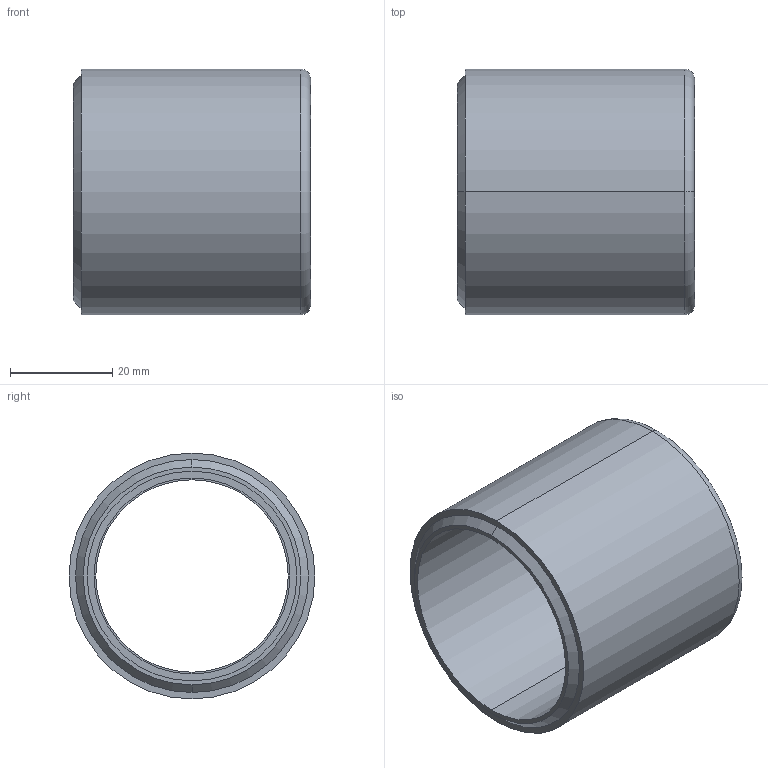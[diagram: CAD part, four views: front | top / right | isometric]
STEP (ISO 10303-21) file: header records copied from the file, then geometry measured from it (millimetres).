
FILE_DESCRIPTION (( 'STEP AP214' ), '1' );
FILE_NAME ('CR-INFV-09-10.STEP', '2020-12-10T16:59:04', ( '' ), ( '' ), 'SwSTEP 2.0', 'SolidWorks 2019', '' );
FILE_SCHEMA (( 'AUTOMOTIVE_DESIGN' ));
Length unit declared in the file: inch
Products named in the file (1): CR-INFV-09-10
Bounding box: 46.4 x 48.11 x 48.11 mm (x, y, z)
Volume: 25737.8 mm3; surface area: 13967.7 mm2
Topology: 1 solids, 1 shells, 20 faces, 40 edges, 26 vertices
Faces by surface type: cylinder 10, plane 6, cone 2, torus 2
Entity records: 840 total; most frequent: DIRECTION 110, CARTESIAN_POINT 87, ORIENTED_EDGE 80, AXIS2_PLACEMENT_3D 49, EDGE_CURVE 40, CIRCLE 28, VERTEX_POINT 26, EDGE_LOOP 26
